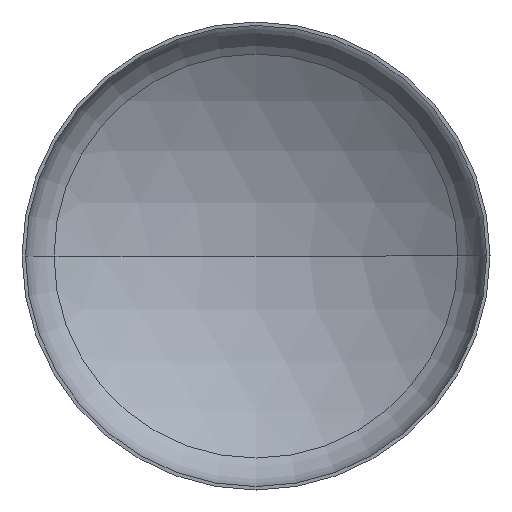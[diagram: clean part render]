
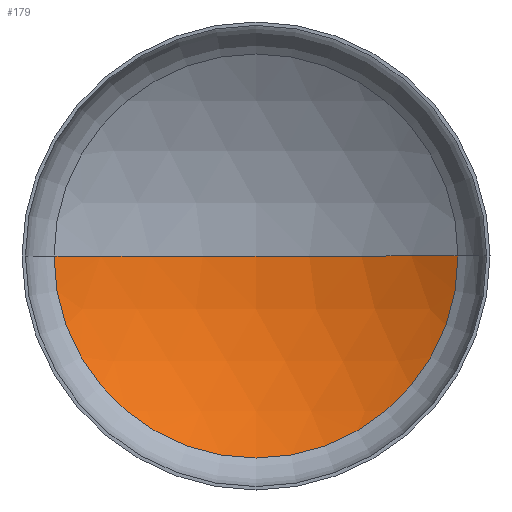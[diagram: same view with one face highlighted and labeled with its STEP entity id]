
A CAD part, front view. The second image highlights one B-rep face of the part: STEP entity #179.
In plain terms, the highlighted spherical face has radius 214.4 mm.
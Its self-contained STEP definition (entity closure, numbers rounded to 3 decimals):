
#13 = CARTESIAN_POINT ( 'NONE',  ( 0., 52.697, 0. ) ) ;
#26 = DIRECTION ( 'NONE',  ( 0., 0., -1. ) ) ;
#30 = CARTESIAN_POINT ( 'NONE',  ( 0., -126.4, 0. ) ) ;
#36 = EDGE_LOOP ( 'NONE', ( #281, #386, #63 ) ) ;
#43 = EDGE_CURVE ( 'NONE', #292, #403, #257, .T. ) ;
#44 = CARTESIAN_POINT ( 'NONE',  ( -117.863, 52.697, 0. ) ) ;
#48 = DIRECTION ( 'NONE',  ( -1., 0., 0. ) ) ;
#51 = CIRCLE ( 'NONE', #102, 214.4 ) ;
#52 = CARTESIAN_POINT ( 'NONE',  ( 0., -126.4, 0. ) ) ;
#53 = DIRECTION ( 'NONE',  ( 0., 1., 0. ) ) ;
#63 = ORIENTED_EDGE ( 'NONE', *, *, #228, .F. ) ;
#77 = FACE_OUTER_BOUND ( 'NONE', #36, .T. ) ;
#78 = AXIS2_PLACEMENT_3D ( 'NONE', #13, #53, #48 ) ;
#80 = DIRECTION ( 'NONE',  ( 0., 0., 1. ) ) ;
#102 = AXIS2_PLACEMENT_3D ( 'NONE', #147, #216, #180 ) ;
#147 = CARTESIAN_POINT ( 'NONE',  ( 0., -126.4, 0. ) ) ;
#158 = CIRCLE ( 'NONE', #391, 214.4 ) ;
#179 = ADVANCED_FACE ( 'NONE', ( #77 ), #331, .F. ) ;
#180 = DIRECTION ( 'NONE',  ( 1., 0., 0. ) ) ;
#187 = DIRECTION ( 'NONE',  ( -1., 0., 0. ) ) ;
#216 = DIRECTION ( 'NONE',  ( 0., 0., 1. ) ) ;
#228 = EDGE_CURVE ( 'NONE', #403, #286, #158, .T. ) ;
#246 = CARTESIAN_POINT ( 'NONE',  ( 117.863, 52.697, 0. ) ) ;
#257 = CIRCLE ( 'NONE', #78, 117.863 ) ;
#280 = AXIS2_PLACEMENT_3D ( 'NONE', #52, #80, #314 ) ;
#281 = ORIENTED_EDGE ( 'NONE', *, *, #43, .F. ) ;
#286 = VERTEX_POINT ( 'NONE', #337 ) ;
#292 = VERTEX_POINT ( 'NONE', #246 ) ;
#306 = EDGE_CURVE ( 'NONE', #292, #286, #51, .T. ) ;
#314 = DIRECTION ( 'NONE',  ( -1., 0., 0. ) ) ;
#331 = SPHERICAL_SURFACE ( 'NONE', #280, 214.4 ) ;
#337 = CARTESIAN_POINT ( 'NONE',  ( 0., 88., 0. ) ) ;
#386 = ORIENTED_EDGE ( 'NONE', *, *, #306, .T. ) ;
#391 = AXIS2_PLACEMENT_3D ( 'NONE', #30, #26, #187 ) ;
#403 = VERTEX_POINT ( 'NONE', #44 ) ;
